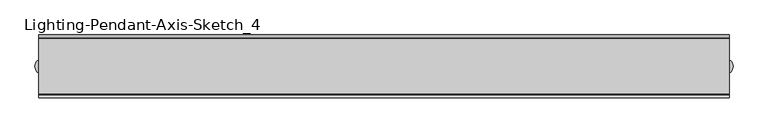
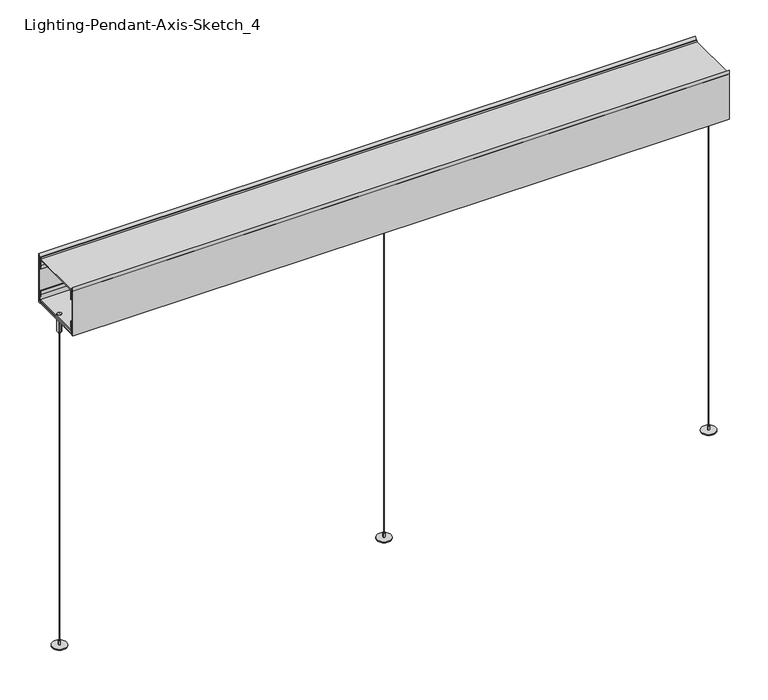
"""IFC4 building model written with IfcOpenShell, lengths in millimetres: light fixture geometry, Lighting-Pendant-Axis-Sketch_4 : SK4PDI-1400-1400-SO-SO-80-35."""

from ifc_helpers import new_model, si_unit, point, frame, frame_2d, origin, origin_with_axes, origin_2d, place, context, project, spatial, polyline, circle_curve, trimmed, segment, composite_curve, outline, extrude, source, transform, mapped, element, save
from ifc_brep_helpers import plane_surface, cylinder_surface, advanced_brep


def lighting_pendant_axis_sketch_4_c0096c62(model_context):
    return source(origin(), model_context, "Body", "SolidModel", [
        extrude(outline(composite_curve([segment(trimmed(circle_curve(frame_2d((569.722, 0.0)), 0.396875), [point((569.325125, 0.0))], [point((570.118875, 0.0))], False, "CARTESIAN"), True, "CONTINUOUS"), segment(trimmed(circle_curve(frame_2d((569.722, 0.0)), 0.396875), [point((570.118875, 0.0))], [point((569.325125, 0.0))], False, "CARTESIAN"), True, "CONTINUOUS")], self_intersect=False)), frame((0.0, 0.0, 9.525), z_axis=(0.0, 0.0, 1.0), x_axis=(1.0, 0.0, 0.0)), (0.0, 0.0, 1.0), 600.075),
        advanced_brep(
        [(569.722, -1.2, 583.1008521), (569.722, -2.95625, 583.1008521), (569.722, 2.95625, 583.1008521), (569.722, 1.2, 583.1008521), (569.722, -1.2, 580.2508521), (569.722, 1.2, 580.2508521), (569.722, 0.0, 580.2508521), (569.722, -3.75, 616.0364681), (569.722, 0.0, 616.0364681), (569.722, 3.75, 616.0364681), (569.722, -3.75, 584.1008521), (569.722, 3.75, 584.1008521), (569.722, -2.95625, 584.1008521), (569.722, 2.95625, 584.1008521)],
        [
            (0, 1),
            (1, 2, circle_curve(frame((569.722, 0.0, 583.1008521), z_axis=(0.0, 0.0, -1.0), x_axis=(0.0, 1.0, 0.0)), 2.95625)),
            (2, 3),
            (3, 0, circle_curve(frame((569.722, 0.0, 583.1008521), z_axis=(0.0, 0.0, 1.0), x_axis=(0.0, 1.0, 0.0)), 1.2)),
            (2, 1, circle_curve(frame((569.722, 0.0, 583.1008521), z_axis=(0.0, 0.0, -1.0), x_axis=(0.0, 1.0, 0.0)), 2.95625)),
            (0, 3, circle_curve(frame((569.722, 0.0, 583.1008521), z_axis=(0.0, 0.0, 1.0), x_axis=(0.0, 1.0, 0.0)), 1.2)),
            (4, 0),
            (3, 5),
            (5, 4, circle_curve(frame((569.722, 0.0, 580.2508521), z_axis=(0.0, 0.0, 1.0), x_axis=(0.0, 1.0, 0.0)), 1.2)),
            (4, 5, circle_curve(frame((569.722, 0.0, 580.2508521), z_axis=(0.0, 0.0, 1.0), x_axis=(0.0, 1.0, 0.0)), 1.2)),
            (6, 4),
            (5, 6),
            (7, 8),
            (8, 9),
            (9, 7, circle_curve(frame((569.722, 0.0, 616.0364681), z_axis=(0.0, 0.0, 1.0), x_axis=(0.0, 1.0, 0.0)), 3.75)),
            (7, 9, circle_curve(frame((569.722, 0.0, 616.0364681), z_axis=(0.0, 0.0, 1.0), x_axis=(0.0, 1.0, 0.0)), 3.75)),
            (10, 7),
            (9, 11),
            (11, 10, circle_curve(frame((569.722, 0.0, 584.1008521), z_axis=(0.0, 0.0, 1.0), x_axis=(0.0, 1.0, 0.0)), 3.75)),
            (10, 11, circle_curve(frame((569.722, 0.0, 584.1008521), z_axis=(0.0, 0.0, 1.0), x_axis=(0.0, 1.0, 0.0)), 3.75)),
            (12, 10),
            (11, 13),
            (13, 12, circle_curve(frame((569.722, 0.0, 584.1008521), z_axis=(0.0, 0.0, 1.0), x_axis=(0.0, 1.0, 0.0)), 2.95625)),
            (12, 13, circle_curve(frame((569.722, 0.0, 584.1008521), z_axis=(0.0, 0.0, 1.0), x_axis=(0.0, 1.0, 0.0)), 2.95625)),
            (1, 12),
            (13, 2),
        ],
        [
            plane_surface(frame((569.722, 0.0, 583.1008521), z_axis=(0.0, 0.0, -1.0), x_axis=(0.0, 1.0, 0.0))),
            cylinder_surface(frame((569.722, 0.0, 2648.6067943), z_axis=(0.0, 0.0, -1.0), x_axis=(0.0, 1.0, 0.0)), 1.2),
            plane_surface(frame((569.722, 0.0, 580.2508521), z_axis=(0.0, 0.0, -1.0), x_axis=(0.0, 1.0, 0.0))),
            plane_surface(frame((569.722, 0.0, 616.0364681), z_axis=(0.0, 0.0, 1.0), x_axis=(0.0, 1.0, 0.0))),
            cylinder_surface(frame((569.722, 0.0, 2648.6067943), z_axis=(0.0, 0.0, -1.0), x_axis=(0.0, 1.0, 0.0)), 3.75),
            plane_surface(frame((569.722, 0.0, 584.1008521), z_axis=(0.0, 0.0, -1.0), x_axis=(0.0, 1.0, 0.0))),
            cylinder_surface(frame((569.722, 0.0, 2648.6067943), z_axis=(0.0, 0.0, -1.0), x_axis=(0.0, 1.0, 0.0)), 2.95625),
        ],
        [
            (0, [[1, 2, 3, 4]]),
            (0, [[-3, 5, -1, 6]]),
            (1, [[7, -4, 8, 9]]),
            (1, [[-8, -6, -7, 10]]),
            (2, [[11, -9, 12]]),
            (2, [[-12, -10, -11]]),
            (3, [[13, 14, 15]]),
            (3, [[-14, -13, 16]]),
            (4, [[17, -15, 18, 19]]),
            (4, [[-18, -16, -17, 20]]),
            (5, [[21, -19, 22, 23]]),
            (5, [[-22, -20, -21, 24]]),
            (6, [[25, -23, 26, -2]]),
            (6, [[-26, -24, -25, -5]]),
        ],
    ),
        extrude(outline(composite_curve([segment(trimmed(circle_curve(frame_2d((569.722, 0.0)), 12.7), [point((557.022, 0.0))], [point((582.422, 0.0))], False, "CARTESIAN"), True, "CONTINUOUS"), segment(trimmed(circle_curve(frame_2d((569.722, 0.0)), 12.7), [point((582.422, 0.0))], [point((557.022, 0.0))], False, "CARTESIAN"), True, "CONTINUOUS")], self_intersect=False)), origin_with_axes(), (0.0, 0.0, 1.0), 1.5875),
        extrude(outline(composite_curve([segment(trimmed(circle_curve(frame_2d((569.722, 0.0)), 1.5875), [point((568.1345, 0.0))], [point((571.3095, 0.0))], False, "CARTESIAN"), True, "CONTINUOUS"), segment(trimmed(circle_curve(frame_2d((569.722, 0.0)), 1.5875), [point((571.3095, 0.0))], [point((568.1345, 0.0))], False, "CARTESIAN"), True, "CONTINUOUS")], self_intersect=False)), frame((0.0, 0.0, 1.5875), z_axis=(0.0, 0.0, 1.0), x_axis=(1.0, 0.0, 0.0)), (0.0, 0.0, 1.0), 7.9375),
        extrude(outline(composite_curve([segment(trimmed(circle_curve(frame_2d((-569.722, 0.0)), 0.396875), [point((-570.118875, 0.0))], [point((-569.325125, 0.0))], False, "CARTESIAN"), True, "CONTINUOUS"), segment(trimmed(circle_curve(frame_2d((-569.722, 0.0)), 0.396875), [point((-569.325125, 0.0))], [point((-570.118875, 0.0))], False, "CARTESIAN"), True, "CONTINUOUS")], self_intersect=False)), frame((0.0, 0.0, 9.525), z_axis=(0.0, 0.0, 1.0), x_axis=(1.0, 0.0, 0.0)), (0.0, 0.0, 1.0), 600.075),
        advanced_brep(
        [(-569.722, -1.2, 583.1008521), (-569.722, -2.95625, 583.1008521), (-569.722, 2.95625, 583.1008521), (-569.722, 1.2, 583.1008521), (-569.722, -1.2, 580.2508521), (-569.722, 1.2, 580.2508521), (-569.722, 0.0, 580.2508521), (-569.722, -3.75, 616.0364681), (-569.722, 0.0, 616.0364681), (-569.722, 3.75, 616.0364681), (-569.722, -3.75, 584.1008521), (-569.722, 3.75, 584.1008521), (-569.722, -2.95625, 584.1008521), (-569.722, 2.95625, 584.1008521)],
        [
            (0, 1),
            (1, 2, circle_curve(frame((-569.722, 0.0, 583.1008521), z_axis=(0.0, 0.0, -1.0), x_axis=(0.0, 1.0, 0.0)), 2.95625)),
            (2, 3),
            (3, 0, circle_curve(frame((-569.722, 0.0, 583.1008521), z_axis=(0.0, 0.0, 1.0), x_axis=(0.0, 1.0, 0.0)), 1.2)),
            (2, 1, circle_curve(frame((-569.722, 0.0, 583.1008521), z_axis=(0.0, 0.0, -1.0), x_axis=(0.0, 1.0, 0.0)), 2.95625)),
            (0, 3, circle_curve(frame((-569.722, 0.0, 583.1008521), z_axis=(0.0, 0.0, 1.0), x_axis=(0.0, 1.0, 0.0)), 1.2)),
            (4, 0),
            (3, 5),
            (5, 4, circle_curve(frame((-569.722, 0.0, 580.2508521), z_axis=(0.0, 0.0, 1.0), x_axis=(0.0, 1.0, 0.0)), 1.2)),
            (4, 5, circle_curve(frame((-569.722, 0.0, 580.2508521), z_axis=(0.0, 0.0, 1.0), x_axis=(0.0, 1.0, 0.0)), 1.2)),
            (6, 4),
            (5, 6),
            (7, 8),
            (8, 9),
            (9, 7, circle_curve(frame((-569.722, 0.0, 616.0364681), z_axis=(0.0, 0.0, 1.0), x_axis=(0.0, 1.0, 0.0)), 3.75)),
            (7, 9, circle_curve(frame((-569.722, 0.0, 616.0364681), z_axis=(0.0, 0.0, 1.0), x_axis=(0.0, 1.0, 0.0)), 3.75)),
            (10, 7),
            (9, 11),
            (11, 10, circle_curve(frame((-569.722, 0.0, 584.1008521), z_axis=(0.0, 0.0, 1.0), x_axis=(0.0, 1.0, 0.0)), 3.75)),
            (10, 11, circle_curve(frame((-569.722, 0.0, 584.1008521), z_axis=(0.0, 0.0, 1.0), x_axis=(0.0, 1.0, 0.0)), 3.75)),
            (12, 10),
            (11, 13),
            (13, 12, circle_curve(frame((-569.722, 0.0, 584.1008521), z_axis=(0.0, 0.0, 1.0), x_axis=(0.0, 1.0, 0.0)), 2.95625)),
            (12, 13, circle_curve(frame((-569.722, 0.0, 584.1008521), z_axis=(0.0, 0.0, 1.0), x_axis=(0.0, 1.0, 0.0)), 2.95625)),
            (1, 12),
            (13, 2),
        ],
        [
            plane_surface(frame((-569.722, 0.0, 583.1008521), z_axis=(0.0, 0.0, -1.0), x_axis=(0.0, 1.0, 0.0))),
            cylinder_surface(frame((-569.722, 0.0, 2648.6067943), z_axis=(0.0, 0.0, -1.0), x_axis=(0.0, 1.0, 0.0)), 1.2),
            plane_surface(frame((-569.722, 0.0, 580.2508521), z_axis=(0.0, 0.0, -1.0), x_axis=(0.0, 1.0, 0.0))),
            plane_surface(frame((-569.722, 0.0, 616.0364681), z_axis=(0.0, 0.0, 1.0), x_axis=(0.0, 1.0, 0.0))),
            cylinder_surface(frame((-569.722, 0.0, 2648.6067943), z_axis=(0.0, 0.0, -1.0), x_axis=(0.0, 1.0, 0.0)), 3.75),
            plane_surface(frame((-569.722, 0.0, 584.1008521), z_axis=(0.0, 0.0, -1.0), x_axis=(0.0, 1.0, 0.0))),
            cylinder_surface(frame((-569.722, 0.0, 2648.6067943), z_axis=(0.0, 0.0, -1.0), x_axis=(0.0, 1.0, 0.0)), 2.95625),
        ],
        [
            (0, [[1, 2, 3, 4]]),
            (0, [[-3, 5, -1, 6]]),
            (1, [[7, -4, 8, 9]]),
            (1, [[-8, -6, -7, 10]]),
            (2, [[11, -9, 12]]),
            (2, [[-12, -10, -11]]),
            (3, [[13, 14, 15]]),
            (3, [[-14, -13, 16]]),
            (4, [[17, -15, 18, 19]]),
            (4, [[-18, -16, -17, 20]]),
            (5, [[21, -19, 22, 23]]),
            (5, [[-22, -20, -21, 24]]),
            (6, [[25, -23, 26, -2]]),
            (6, [[-26, -24, -25, -5]]),
        ],
    ),
        extrude(outline(composite_curve([segment(trimmed(circle_curve(frame_2d((-569.722, 0.0)), 12.7), [point((-582.422, 0.0))], [point((-557.022, 0.0))], False, "CARTESIAN"), True, "CONTINUOUS"), segment(trimmed(circle_curve(frame_2d((-569.722, 0.0)), 12.7), [point((-557.022, 0.0))], [point((-582.422, 0.0))], False, "CARTESIAN"), True, "CONTINUOUS")], self_intersect=False)), origin_with_axes(), (0.0, 0.0, 1.0), 1.5875),
        extrude(outline(composite_curve([segment(trimmed(circle_curve(frame_2d((-569.722, 0.0)), 1.5875), [point((-571.3095, 0.0))], [point((-568.1345, 0.0))], False, "CARTESIAN"), True, "CONTINUOUS"), segment(trimmed(circle_curve(frame_2d((-569.722, 0.0)), 1.5875), [point((-568.1345, 0.0))], [point((-571.3095, 0.0))], False, "CARTESIAN"), True, "CONTINUOUS")], self_intersect=False)), frame((0.0, 0.0, 1.5875), z_axis=(0.0, 0.0, 1.0), x_axis=(1.0, 0.0, 0.0)), (0.0, 0.0, 1.0), 7.9375),
        extrude(outline(composite_curve([segment(trimmed(circle_curve(origin_2d(), 0.396875), [point((-0.396875, 0.0))], [point((0.396875, 0.0))], False, "CARTESIAN"), True, "CONTINUOUS"), segment(trimmed(circle_curve(origin_2d(), 0.396875), [point((0.396875, 0.0))], [point((-0.396875, 0.0))], False, "CARTESIAN"), True, "CONTINUOUS")], self_intersect=False)), frame((0.0, 0.0, 9.525), z_axis=(0.0, 0.0, 1.0), x_axis=(1.0, 0.0, 0.0)), (0.0, 0.0, 1.0), 600.075),
        advanced_brep(
        [(0.0, -1.2, 583.1008521), (0.0, -2.95625, 583.1008521), (0.0, 2.95625, 583.1008521), (0.0, 1.2, 583.1008521), (0.0, -1.2, 580.2508521), (0.0, 1.2, 580.2508521), (0.0, 0.0, 580.2508521), (0.0, -3.75, 616.0364681), (0.0, 0.0, 616.0364681), (0.0, 3.75, 616.0364681), (0.0, -3.75, 584.1008521), (0.0, 3.75, 584.1008521), (0.0, -2.95625, 584.1008521), (0.0, 2.95625, 584.1008521)],
        [
            (0, 1),
            (1, 2, circle_curve(frame((0.0, 0.0, 583.1008521), z_axis=(0.0, 0.0, -1.0), x_axis=(0.0, 1.0, 0.0)), 2.95625)),
            (2, 3),
            (3, 0, circle_curve(frame((0.0, 0.0, 583.1008521), z_axis=(0.0, 0.0, 1.0), x_axis=(0.0, 1.0, 0.0)), 1.2)),
            (2, 1, circle_curve(frame((0.0, 0.0, 583.1008521), z_axis=(0.0, 0.0, -1.0), x_axis=(0.0, 1.0, 0.0)), 2.95625)),
            (0, 3, circle_curve(frame((0.0, 0.0, 583.1008521), z_axis=(0.0, 0.0, 1.0), x_axis=(0.0, 1.0, 0.0)), 1.2)),
            (4, 0),
            (3, 5),
            (5, 4, circle_curve(frame((0.0, 0.0, 580.2508521), z_axis=(0.0, 0.0, 1.0), x_axis=(0.0, 1.0, 0.0)), 1.2)),
            (4, 5, circle_curve(frame((0.0, 0.0, 580.2508521), z_axis=(0.0, 0.0, 1.0), x_axis=(0.0, 1.0, 0.0)), 1.2)),
            (6, 4),
            (5, 6),
            (7, 8),
            (8, 9),
            (9, 7, circle_curve(frame((0.0, 0.0, 616.0364681), z_axis=(0.0, 0.0, 1.0), x_axis=(0.0, 1.0, 0.0)), 3.75)),
            (7, 9, circle_curve(frame((0.0, 0.0, 616.0364681), z_axis=(0.0, 0.0, 1.0), x_axis=(0.0, 1.0, 0.0)), 3.75)),
            (10, 7),
            (9, 11),
            (11, 10, circle_curve(frame((0.0, 0.0, 584.1008521), z_axis=(0.0, 0.0, 1.0), x_axis=(0.0, 1.0, 0.0)), 3.75)),
            (10, 11, circle_curve(frame((0.0, 0.0, 584.1008521), z_axis=(0.0, 0.0, 1.0), x_axis=(0.0, 1.0, 0.0)), 3.75)),
            (12, 10),
            (11, 13),
            (13, 12, circle_curve(frame((0.0, 0.0, 584.1008521), z_axis=(0.0, 0.0, 1.0), x_axis=(0.0, 1.0, 0.0)), 2.95625)),
            (12, 13, circle_curve(frame((0.0, 0.0, 584.1008521), z_axis=(0.0, 0.0, 1.0), x_axis=(0.0, 1.0, 0.0)), 2.95625)),
            (1, 12),
            (13, 2),
        ],
        [
            plane_surface(frame((0.0, 0.0, 583.1008521), z_axis=(0.0, 0.0, -1.0), x_axis=(0.0, 1.0, 0.0))),
            cylinder_surface(frame((0.0, 0.0, 2648.6067943), z_axis=(0.0, 0.0, -1.0), x_axis=(0.0, 1.0, 0.0)), 1.2),
            plane_surface(frame((0.0, 0.0, 580.2508521), z_axis=(0.0, 0.0, -1.0), x_axis=(0.0, 1.0, 0.0))),
            plane_surface(frame((0.0, 0.0, 616.0364681), z_axis=(0.0, 0.0, 1.0), x_axis=(0.0, 1.0, 0.0))),
            cylinder_surface(frame((0.0, 0.0, 2648.6067943), z_axis=(0.0, 0.0, -1.0), x_axis=(0.0, 1.0, 0.0)), 3.75),
            plane_surface(frame((0.0, 0.0, 584.1008521), z_axis=(0.0, 0.0, -1.0), x_axis=(0.0, 1.0, 0.0))),
            cylinder_surface(frame((0.0, 0.0, 2648.6067943), z_axis=(0.0, 0.0, -1.0), x_axis=(0.0, 1.0, 0.0)), 2.95625),
        ],
        [
            (0, [[1, 2, 3, 4]]),
            (0, [[-3, 5, -1, 6]]),
            (1, [[7, -4, 8, 9]]),
            (1, [[-8, -6, -7, 10]]),
            (2, [[11, -9, 12]]),
            (2, [[-12, -10, -11]]),
            (3, [[13, 14, 15]]),
            (3, [[-14, -13, 16]]),
            (4, [[17, -15, 18, 19]]),
            (4, [[-18, -16, -17, 20]]),
            (5, [[21, -19, 22, 23]]),
            (5, [[-22, -20, -21, 24]]),
            (6, [[25, -23, 26, -2]]),
            (6, [[-26, -24, -25, -5]]),
        ],
    ),
        extrude(outline(composite_curve([segment(trimmed(circle_curve(origin_2d(), 12.7), [point((-12.7, 0.0))], [point((12.7, 0.0))], False, "CARTESIAN"), True, "CONTINUOUS"), segment(trimmed(circle_curve(origin_2d(), 12.7), [point((12.7, 0.0))], [point((-12.7, 0.0))], False, "CARTESIAN"), True, "CONTINUOUS")], self_intersect=False)), origin_with_axes(), (0.0, 0.0, 1.0), 1.5875),
        extrude(outline(composite_curve([segment(trimmed(circle_curve(origin_2d(), 1.5875), [point((-1.5875, 0.0))], [point((1.5875, 0.0))], False, "CARTESIAN"), True, "CONTINUOUS"), segment(trimmed(circle_curve(origin_2d(), 1.5875), [point((1.5875, 0.0))], [point((-1.5875, 0.0))], False, "CARTESIAN"), True, "CONTINUOUS")], self_intersect=False)), frame((0.0, 0.0, 1.5875), z_axis=(0.0, 0.0, 1.0), x_axis=(1.0, 0.0, 0.0)), (0.0, 0.0, 1.0), 7.9375),
        extrude(outline(polyline([(-576.072, 48.2599987), (576.072, 48.2599987), (576.072, -48.2599977), (-576.072, -48.2599977), (-576.072, 48.2599987)])), frame((0.0, 0.0, 689.9966516), z_axis=(0.0, 0.0, 1.0), x_axis=(1.0, 0.0, 0.0)), (0.0, 0.0, 1.0), 1.2700021),
        extrude(outline(polyline([(-576.072, 48.2599987), (576.072, 48.2599987), (576.072, -48.2599977), (-576.072, -48.2599977), (-576.072, 48.2599987)])), frame((0.0, 0.0, 614.5727648), z_axis=(0.0, 0.0, 1.0), x_axis=(1.0, 0.0, 0.0)), (0.0, 0.0, 1.0), 1.27),
        extrude(outline(polyline([(52.387502, 608.1183333), (48.8649121, 608.1183333), (47.3074984, 609.6312495), (47.3074984, 611.2933333), (48.5749867, 611.2933333), (48.5749867, 610.0233333), (50.4824984, 610.0233333), (50.4824984, 694.1255577), (47.9424983, 694.1255577), (52.387502, 698.5705614), (52.387502, 608.1183333)])), frame((-576.072, 0.0, 0.0), z_axis=(1.0, 0.0, 0.0), x_axis=(0.0, 1.0, 0.0)), (0.0, 0.0, 1.0), 1152.144),
        extrude(outline(composite_curve([segment(trimmed(circle_curve(frame_2d((48.3340208, 615.7030556)), 1.6193127), [point((47.7623797, 617.2181133))], [point((49.9533335, 615.7030556))], False, "CARTESIAN"), True, "CONTINUOUS"), segment(polyline([(49.9533335, 615.7030556), (49.9180536, 613.3747222)]), True, "CONTINUOUS"), segment(trimmed(circle_curve(frame_2d((48.7732449, 613.3920688)), 1.1449401), [point((49.9180536, 613.3747222))], [point((48.2952793, 612.3516667))], False, "CARTESIAN"), True, "CONTINUOUS"), segment(polyline([(48.2952793, 612.3516667), (46.5723819, 614.1933833), (48.9062894, 614.1085157), (48.9655543, 615.7383333)]), True, "CONTINUOUS"), segment(trimmed(circle_curve(frame_2d((48.3048304, 615.63155)), 0.6692972), [point((48.9655543, 615.7383333))], [point((48.3048304, 616.3008472))], True, "CARTESIAN"), True, "CONTINUOUS"), segment(polyline([(48.3048304, 616.3008472), (46.8043106, 616.3008472), (46.2138897, 626.1805556), (46.1433321, 632.7774986), (47.1663883, 632.7774986), (47.203689, 626.6227718), (47.7623797, 617.2181133)]), True, "CONTINUOUS")], self_intersect=False)), frame((-576.072, 0.0, 0.0), z_axis=(1.0, 0.0, 0.0), x_axis=(0.0, 1.0, 0.0)), (0.0, 0.0, 1.0), 1152.144),
        extrude(outline(composite_curve([segment(polyline([(47.1044268, 679.4782704), (47.3427772, 672.9236111), (46.318589, 672.9236111), (46.1087781, 679.4627439), (46.305025, 689.3731705), (48.4283489, 689.5430339), (48.3121579, 691.6345118), (45.9802057, 691.5049613), (47.6250008, 693.3847222)]), True, "CONTINUOUS"), segment(trimmed(circle_curve(frame_2d((48.1406669, 692.3629889)), 1.144487), [point((47.6250008, 693.3847222))], [point((49.2830578, 692.4322236))], False, "CARTESIAN"), True, "CONTINUOUS"), segment(polyline([(49.2830578, 692.4322236), (49.4241668, 690.1038875)]), True, "CONTINUOUS"), segment(trimmed(circle_curve(frame_2d((47.6971346, 689.9992206)), 1.730201), [point((49.4241668, 690.1038875))], [point((47.2795148, 688.3201765))], False, "CARTESIAN"), True, "CONTINUOUS"), segment(polyline([(47.2795148, 688.3201765), (47.1044268, 679.4782704)]), True, "CONTINUOUS")], self_intersect=False)), frame((-576.072, 0.0, 0.0), z_axis=(1.0, 0.0, 0.0), x_axis=(0.0, 1.0, 0.0)), (0.0, 0.0, 1.0), 1152.144),
        extrude(outline(polyline([(-52.387502, 608.1183333), (-52.387502, 698.5705614), (-47.9424983, 694.1255577), (-50.4824984, 694.1255577), (-50.4824984, 610.0233333), (-48.5749867, 610.0233333), (-48.5749867, 611.2933333), (-47.3074984, 611.2933333), (-47.3074984, 609.6312495), (-48.8649121, 608.1183333), (-52.387502, 608.1183333)])), frame((-576.072, 0.0, 0.0), z_axis=(1.0, 0.0, 0.0), x_axis=(0.0, 1.0, 0.0)), (0.0, 0.0, 1.0), 1152.144),
        extrude(outline(composite_curve([segment(polyline([(-47.7623797, 617.2181133), (-47.203689, 626.6227718), (-47.1663883, 632.7774986), (-46.1433321, 632.7774986), (-46.2138897, 626.1805556), (-46.8043106, 616.3008472), (-48.3048304, 616.3008472)]), True, "CONTINUOUS"), segment(trimmed(circle_curve(frame_2d((-48.3048304, 615.63155)), 0.6692972), [point((-48.3048304, 616.3008472))], [point((-48.9655543, 615.7383333))], True, "CARTESIAN"), True, "CONTINUOUS"), segment(polyline([(-48.9655543, 615.7383333), (-48.9655543, 614.2021029), (-46.6913645, 614.0661951), (-48.2952793, 612.3516667)]), True, "CONTINUOUS"), segment(trimmed(circle_curve(frame_2d((-48.7732449, 613.3920688)), 1.1449401), [point((-48.2952793, 612.3516667))], [point((-49.9180536, 613.3747222))], False, "CARTESIAN"), True, "CONTINUOUS"), segment(polyline([(-49.9180536, 613.3747222), (-49.9533335, 615.7030556)]), True, "CONTINUOUS"), segment(trimmed(circle_curve(frame_2d((-48.3340208, 615.7030556)), 1.6193127), [point((-49.9533335, 615.7030556))], [point((-47.7623797, 617.2181133))], False, "CARTESIAN"), True, "CONTINUOUS")], self_intersect=False)), frame((-576.072, 0.0, 0.0), z_axis=(1.0, 0.0, 0.0), x_axis=(0.0, 1.0, 0.0)), (0.0, 0.0, 1.0), 1152.144),
        extrude(outline(composite_curve([segment(polyline([(-47.1044268, 679.4782704), (-47.2795148, 688.3201765)]), True, "CONTINUOUS"), segment(trimmed(circle_curve(frame_2d((-47.6971346, 689.9992206)), 1.730201), [point((-47.2795148, 688.3201765))], [point((-49.4241668, 690.1038875))], False, "CARTESIAN"), True, "CONTINUOUS"), segment(polyline([(-49.4241668, 690.1038875), (-49.2830578, 692.4322236)]), True, "CONTINUOUS"), segment(trimmed(circle_curve(frame_2d((-48.1406669, 692.3629889)), 1.144487), [point((-49.2830578, 692.4322236))], [point((-47.6250008, 693.3847222))], False, "CARTESIAN"), True, "CONTINUOUS"), segment(polyline([(-47.6250008, 693.3847222), (-45.9802057, 691.5049613), (-48.3121579, 691.6345118), (-48.4283489, 689.5430339), (-46.305025, 689.3731705), (-46.1087781, 679.4627439), (-46.318589, 672.9236111), (-47.3427772, 672.9236111), (-47.1044268, 679.4782704)]), True, "CONTINUOUS")], self_intersect=False)), frame((-576.072, 0.0, 0.0), z_axis=(1.0, 0.0, 0.0), x_axis=(0.0, 1.0, 0.0)), (0.0, 0.0, 1.0), 1152.144),
        extrude(outline(polyline([(-576.072, 47.3074984), (576.072, 47.3074984), (576.072, -47.3074984), (-576.072, -47.3074984), (-576.072, 47.3074984)])), frame((0.0, 0.0, 609.6312495), z_axis=(0.0, 0.0, 1.0), x_axis=(1.0, 0.0, 0.0)), (0.0, 0.0, 1.0), 1.6620839),
    ])


if __name__ == "__main__":
    model = new_model("IFC4")
    model_context = context("Model", 3, world=origin())
    ifc_project = project(units=[si_unit("LENGTHUNIT", "METRE", prefix="MILLI")], contexts=[model_context])
    site = spatial("IfcSite", under=ifc_project)
    building = spatial("IfcBuilding", under=site)
    placement = place(None, origin())
    lighting_pendant_axis_sketch_4_shape = lighting_pendant_axis_sketch_4_c0096c62(model_context)
    element("IfcLightFixture", 1, ObjectType="Lighting-Pendant-Axis-Sketch_4 : SK4PDI-1400-1400-SO-SO-80-35", at=placement, inside=building, context=model_context, shape_type="MappedRepresentation", body=[
        mapped(lighting_pendant_axis_sketch_4_shape, transform((0.0, 0.0, 0.0), x_axis=(1.0, 0.0, 0.0), y_axis=(0.0, 1.0, 0.0), z_axis=(0.0, 0.0, 1.0))),
    ])
    save(model, "model.ifc")
